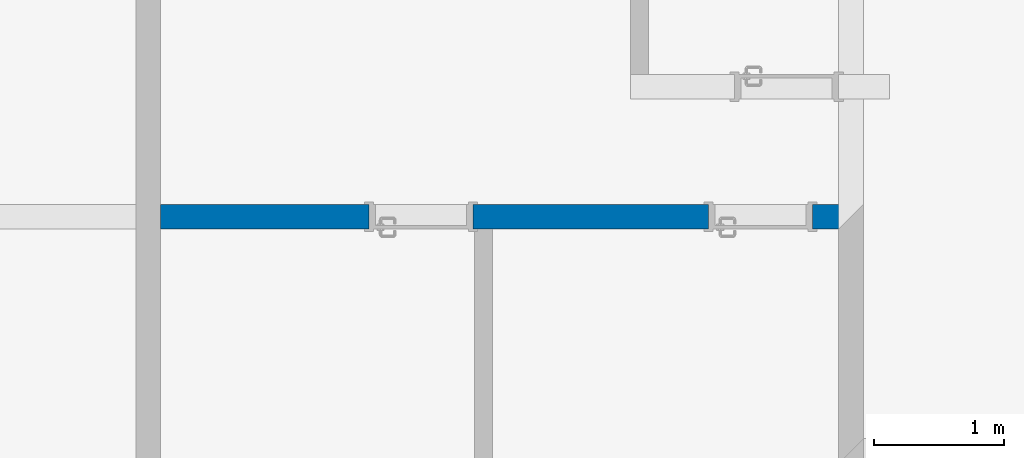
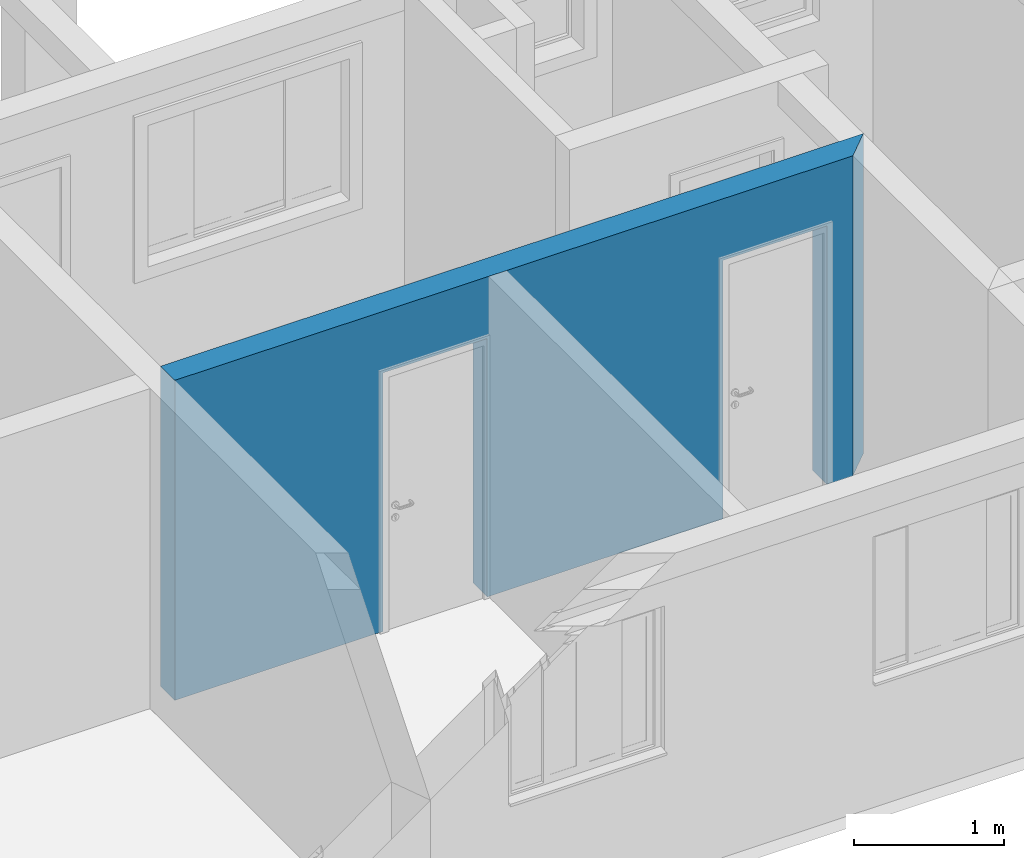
# One storey, part 17 of 47: 1 wall, 2 openings.
"""IFC2X3 building model written with IfcOpenShell, lengths in millimetres."""

import ifcopenshell
import ifcopenshell.guid

model = None  # the IFC model being written
_history = None  # IfcOwnerHistory: only IFC2X3 demands one
_inside = {}  # id of a spatial element -> (the spatial element, [elements in it])
_under = {}  # id of a project, library or spatial element -> (it, [spatial elements below it])
_declared = {}  # id of a project -> (the project, [libraries it declares])
_typed = {}  # id of a type object -> (the type object, [elements of that type])
_made_of = {}  # id of a material, layer set ... -> (it, [elements and type objects made of it])


def new_model(schema):
    """Start an empty IFC model of exactly this schema.

    Asked for "IFC4X3", IfcOpenShell would pick the latest addendum, in which some entities
    have other attributes; the version numbers below select the first issue.
    IFC2X3 requires an IfcOwnerHistory on every rooted entity: one is made here for all.
    """
    global model, _history
    if schema == "IFC4X3":
        model = ifcopenshell.file(schema_version=(4, 3, 0, 0))
    else:
        model = ifcopenshell.file(schema=schema)
    _inside.clear()
    _under.clear()
    _declared.clear()
    _typed.clear()
    _made_of.clear()
    _history = None
    if model.schema == "IFC2X3":
        org = make("IfcOrganization", Name="unknown")
        user = make(
            "IfcPersonAndOrganization",
            ThePerson=make("IfcPerson", FamilyName="unknown"),
            TheOrganization=org,
        )
        app = make(
            "IfcApplication",
            ApplicationDeveloper=org,
            Version="unknown",
            ApplicationFullName="unknown",
            ApplicationIdentifier="unknown",
        )
        _history = make(
            "IfcOwnerHistory",
            OwningUser=user,
            OwningApplication=app,
            ChangeAction="ADDED",
            CreationDate=0,
        )
    return model


def make(cls, **values):
    """One entity of the class cls with the attributes given. An attribute that is None is left unset."""
    return model.create_entity(
        cls, **{name: value for name, value in values.items() if value is not None}
    )


def entity(cls, *values):
    """Any entity or typed value of the class cls, its attributes in the order of the schema. None: left unset."""
    e = model.create_entity(cls)
    for i, value in enumerate(values):
        if value is not None:
            e[i] = value
    return e


def rooted(cls, **values):
    """An entity with a GlobalId (a new one), such as an element, a storey or a relation."""
    return make(cls, GlobalId=ifcopenshell.guid.new(), OwnerHistory=_history, **values)


def si_unit(unit_type, name, prefix=None):
    """IfcSIUnit, for example si_unit("LENGTHUNIT", "METRE", prefix="MILLI")."""
    return make("IfcSIUnit", UnitType=unit_type, Prefix=prefix, Name=name)


def converted_unit(unit_type, name, factor, base, dimensions=None, offset=None):
    """IfcConversionBasedUnit, such as the inch: factor (a typed value) times the base unit."""
    return make(
        "IfcConversionBasedUnit"
        if offset is None
        else "IfcConversionBasedUnitWithOffset",
        ConversionOffset=offset,
        Dimensions=None
        if dimensions is None
        else entity("IfcDimensionalExponents", *dimensions),
        UnitType=unit_type,
        Name=name,
        ConversionFactor=make(
            "IfcMeasureWithUnit", ValueComponent=factor, UnitComponent=base
        ),
    )


def derived_unit(unit_type, elements):
    """IfcDerivedUnit: a product of units, each with its exponent."""
    return make(
        "IfcDerivedUnit",
        Elements=[
            make("IfcDerivedUnitElement", Unit=unit, Exponent=power)
            for unit, power in elements
        ],
        UnitType=unit_type,
    )


def money_unit(currency):
    """IfcMonetaryUnit."""
    return make("IfcMonetaryUnit", Currency=currency)


def assignment(units):
    """IfcUnitAssignment: the units of a project."""
    return None if units is None else make("IfcUnitAssignment", Units=units)


def point(xyz):
    """IfcCartesianPoint."""
    return None if xyz is None else make("IfcCartesianPoint", Coordinates=xyz)


def direction(xyz):
    """IfcDirection."""
    return None if xyz is None else make("IfcDirection", DirectionRatios=xyz)


def frame(location, z_axis=None, x_axis=None):
    """IfcAxis2Placement3D, a coordinate frame: its origin and axes. An axis left out is left unset."""
    return make(
        "IfcAxis2Placement3D",
        Location=point(location),
        Axis=direction(z_axis),
        RefDirection=direction(x_axis),
    )


def frame_2d(location, x_axis=None):
    """IfcAxis2Placement2D, a coordinate frame in the plane: its origin and x axis."""
    return make(
        "IfcAxis2Placement2D", Location=point(location), RefDirection=direction(x_axis)
    )


def origin_with_axes():
    """The frame at (0, 0, 0) with the z axis (0, 0, 1) and the x axis (1, 0, 0) written out."""
    return frame((0.0, 0.0, 0.0), z_axis=(0.0, 0.0, 1.0), x_axis=(1.0, 0.0, 0.0))


def origin_2d_with_axis():
    """The frame at (0, 0) in the plane with the x axis (1, 0) written out."""
    return frame_2d((0.0, 0.0), x_axis=(1.0, 0.0))


def place(relative_to, where):
    """IfcLocalPlacement: puts the frame where relative to a parent placement (None: the world)."""
    return make(
        "IfcLocalPlacement", PlacementRelTo=relative_to, RelativePlacement=where
    )


def context(
    kind, dimensions, precision=None, world=None, true_north=None, identifier=None
):
    """IfcGeometricRepresentationContext, for example the 3D "Model" context."""
    return make(
        "IfcGeometricRepresentationContext",
        ContextIdentifier=identifier,
        ContextType=kind,
        CoordinateSpaceDimension=dimensions,
        Precision=precision,
        WorldCoordinateSystem=world,
        TrueNorth=true_north,
    )


def subcontext(parent, identifier, kind, view, scale=None):
    """IfcGeometricRepresentationSubContext, for example "Body" below "Model"."""
    return make(
        "IfcGeometricRepresentationSubContext",
        ContextIdentifier=identifier,
        ContextType=kind,
        ParentContext=parent,
        TargetScale=scale,
        TargetView=view,
    )


def project(units=None, contexts=None):
    """IfcProject with its units and contexts."""
    return rooted(
        "IfcProject",
        Name="project",
        RepresentationContexts=contexts,
        UnitsInContext=assignment(units),
    )


def spatial(cls, under=None, at=None, **own):
    """A site, building, storey or space (cls), placed at a placement, below another one or the project."""
    s = rooted(cls, ObjectPlacement=at, **own)
    if under is not None:
        _under.setdefault(under.id(), (under, []))[1].append(s)
    return s


def polyline(points):
    """IfcPolyline through the points."""
    return make("IfcPolyline", Points=[point(p) for p in points])


def profile(cls, at=None, kind="AREA", **sizes):
    """A parametric profile (cls). Its sizes go by their IFC names, for example OverallWidth=200.0."""
    return make(cls, ProfileType=kind, Position=at, **sizes)


def rectangle(**sizes):
    """IfcRectangleProfileDef."""
    return profile("IfcRectangleProfileDef", **sizes)


def outline(outer, holes=None, kind="AREA"):
    """IfcArbitraryClosedProfileDef: a profile drawn as a closed curve; with holes, ...WithVoids."""
    if holes is None:
        return make("IfcArbitraryClosedProfileDef", ProfileType=kind, OuterCurve=outer)
    return make(
        "IfcArbitraryProfileDefWithVoids",
        ProfileType=kind,
        OuterCurve=outer,
        InnerCurves=holes,
    )


def extrude(swept, where, along, depth):
    """IfcExtrudedAreaSolid: the profile swept, set in the frame where, extruded along a direction by depth."""
    return make(
        "IfcExtrudedAreaSolid",
        SweptArea=swept,
        Position=where,
        ExtrudedDirection=direction(along),
        Depth=depth,
    )


def shape(context_of_items, identifier, shape_type, items):
    """IfcShapeRepresentation: the items that make up one representation, for example the "Body"."""
    return make(
        "IfcShapeRepresentation",
        ContextOfItems=context_of_items,
        RepresentationIdentifier=identifier,
        RepresentationType=shape_type,
        Items=items,
    )


def material(Name=None, Category=None):
    """IfcMaterial."""
    return make("IfcMaterial", Name=Name, Category=Category)


def layer(
    of_material, thickness, ventilated=None, Name=None, Category=None, Priority=None
):
    """IfcMaterialLayer: one layer of a wall or slab, of a material (None: an air gap)."""
    return make(
        "IfcMaterialLayer",
        Material=of_material,
        LayerThickness=thickness,
        IsVentilated=ventilated,
        Name=Name,
        Category=Category,
        Priority=Priority,
    )


def layer_set(layers, Name=None):
    """IfcMaterialLayerSet."""
    return make("IfcMaterialLayerSet", MaterialLayers=layers, LayerSetName=Name)


def layer_usage(for_layer_set, set_direction, sense, offset, extent=None):
    """IfcMaterialLayerSetUsage: how a layer set lies in its element."""
    return make(
        "IfcMaterialLayerSetUsage",
        ForLayerSet=for_layer_set,
        LayerSetDirection=set_direction,
        DirectionSense=sense,
        OffsetFromReferenceLine=offset,
        ReferenceExtent=extent,
    )


def made_of(thing, what):
    """Note that an element or type object is made of a material, layer set ...; save() writes the relation."""
    if what is not None:
        _made_of.setdefault(what.id(), (what, []))[1].append(thing)
    return thing


def type_object(cls, material=None, **own):
    """A type object (cls), such as IfcWallType, which elements share."""
    return made_of(rooted(cls, **own), material)


def element(
    cls,
    number,
    at=None,
    inside=None,
    cuts=None,
    type_object=None,
    material=None,
    context=None,
    identifier="Body",
    shape_type=None,
    held_by="IfcProductDefinitionShape",
    body=None,
    shapes=None,
    **own,
):
    """One element of the class cls, such as IfcWall. Its Tag is "e" and its number.

    at: its placement. inside: the storey or other place that contains it. cuts: it is an
    opening in that element (IfcRelVoidsElement). A single representation is given by context,
    identifier, shape_type and body (its items); several are given by shapes. held_by: the class
    of the entity that holds the representations. save() writes the other relations.
    """
    e = rooted(cls, Tag="e%d" % number, ObjectPlacement=at, **own)
    if body is not None:
        shapes = [shape(context, identifier, shape_type, body)]
    if shapes is not None:
        e.Representation = make(held_by, Representations=shapes)
    if inside is not None:
        _inside.setdefault(inside.id(), (inside, []))[1].append(e)
    if cuts is not None:
        rooted(
            "IfcRelVoidsElement", RelatingBuildingElement=cuts, RelatedOpeningElement=e
        )
    if type_object is not None:
        _typed.setdefault(type_object.id(), (type_object, []))[1].append(e)
    return made_of(e, material)


def aggregate(whole, parts):
    """IfcRelAggregates: a whole, such as a stair, and the parts it consists of."""
    return rooted("IfcRelAggregates", RelatingObject=whole, RelatedObjects=parts)


def save(model, path):
    """Write the relations noted so far, then the file.

    IfcRelAggregates (storeys below a building ...), IfcRelContainedInSpatialStructure (elements
    in a storey), IfcRelDefinesByType, IfcRelAssociatesMaterial and IfcRelDeclares: one each for
    every whole, place, type object, material and project.
    """
    for whole, parts in _under.values():
        aggregate(whole, parts)
    for where, things in _inside.values():
        rooted(
            "IfcRelContainedInSpatialStructure",
            RelatedElements=things,
            RelatingStructure=where,
        )
    for kind, things in _typed.values():
        rooted("IfcRelDefinesByType", RelatedObjects=things, RelatingType=kind)
    for what, things in _made_of.values():
        rooted("IfcRelAssociatesMaterial", RelatedObjects=things, RelatingMaterial=what)
    for by, libraries in _declared.values():
        rooted("IfcRelDeclares", RelatingContext=by, RelatedDefinitions=libraries)
    model.write(path)


model = new_model("IFC2X3")

# Units and contexts
model_context = context("Model", 3, precision=0.01, world=origin_with_axes(), true_north=direction((0.0, 1.0)))
body_context = subcontext(model_context, "Body", "Model", "MODEL_VIEW")
ifc_project = project(units=[si_unit("LENGTHUNIT", "METRE", prefix="MILLI"), si_unit("AREAUNIT", "SQUARE_METRE"), si_unit("VOLUMEUNIT", "CUBIC_METRE"), converted_unit("PLANEANGLEUNIT", "DEGREE", entity("IfcPlaneAngleMeasure", 0.0174532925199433), si_unit("PLANEANGLEUNIT", "RADIAN"), dimensions=[0, 0, 0, 0, 0, 0, 0]), money_unit("USD"), converted_unit("TIMEUNIT", "Year", entity("IfcTimeMeasure", 31557600.0), si_unit("TIMEUNIT", "SECOND"), dimensions=[0, 0, 1, 0, 0, 0, 0]), si_unit("MASSUNIT", "GRAM", prefix="KILO"), si_unit("THERMODYNAMICTEMPERATUREUNIT", "DEGREE_CELSIUS"), si_unit("LUMINOUSINTENSITYUNIT", "LUMEN"), si_unit("ENERGYUNIT", "JOULE", prefix="MEGA"), derived_unit("THERMALCONDUCTANCEUNIT", [(si_unit("POWERUNIT", "WATT"), 1), (si_unit("LENGTHUNIT", "METRE"), -1), (si_unit("THERMODYNAMICTEMPERATUREUNIT", "KELVIN"), -1)]), derived_unit("SPECIFICHEATCAPACITYUNIT", [(si_unit("ENERGYUNIT", "JOULE"), 1), (si_unit("MASSUNIT", "GRAM", prefix="KILO"), -1), (si_unit("THERMODYNAMICTEMPERATUREUNIT", "KELVIN"), -1)]), derived_unit("MASSDENSITYUNIT", [(si_unit("MASSUNIT", "GRAM", prefix="KILO"), 1), (si_unit("VOLUMEUNIT", "CUBIC_METRE"), -1)])], contexts=[model_context])

# Site, building, storey
site_placement = place(None, origin_with_axes())
site = spatial("IfcSite", under=ifc_project, at=site_placement, Name="Local", CompositionType="ELEMENT")
building_placement = place(site_placement, origin_with_axes())
building = spatial("IfcBuilding", under=site, at=building_placement, Name="Construção", CompositionType="ELEMENT")
storey_placement = place(building_placement, origin_with_axes())
storey = spatial("IfcBuildingStorey", under=building, at=storey_placement, Name="Pavimento Tipo", CompositionType="ELEMENT", Elevation=0.0)

# Wall, openings
ifc_material = material(Name="Concreto - Estrutural")
ifc_layer = layer(ifc_material, 190.0, ventilated="UNKNOWN")
ifc_layer_set = layer_set([ifc_layer], Name="Concreto - Estrutural 190")
ifc_layer_usage = layer_usage(ifc_layer_set, "AXIS2", "POSITIVE", 0.0)
wall_type = type_object("IfcWallType", Name="Concreto - Estrutural 190", PredefinedType="NOTDEFINED")
wall_placement = place(storey_placement, frame((6442.566997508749, 1986.981417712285, 0.0), z_axis=(0.0, 0.0, 1.0), x_axis=(-1.0, 0.0, 0.0)))
wall = element("IfcWallStandardCase", 1, at=wall_placement, inside=storey, type_object=wall_type, material=ifc_layer_usage, Name="Apartamento 4 - Parede-084", context=body_context, shape_type="SweptSolid", body=[
    extrude(outline(polyline([(0.0, 0.0), (5399.999999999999, 0.0), (5399.999999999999, 189.9999999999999), (190.0000000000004, 189.9999999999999), (0.0, 0.0)])), origin_with_axes(), (0.0, 0.0, 1.0), 2600.0),
])
opening_1_placement = place(wall_placement, frame((790.0000000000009, 0.0, 0.0), z_axis=(0.0, 0.0, 1.0), x_axis=(1.0, 0.0, 0.0)))
element("IfcOpeningElement", 2, at=opening_1_placement, cuts=wall, Name="Apartamento 4 - P03", context=body_context, shape_type="SweptSolid", body=[
    extrude(rectangle(XDim=800.0000000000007, YDim=2100.0, at=origin_2d_with_axis()), frame((0.0, 189.9999999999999, 1050.0), z_axis=(0.0, 1.0, 0.0), x_axis=(-1.0, 0.0, 0.0)), (0.0, 0.0, -1.0), 570.0000000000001),
    extrude(rectangle(XDim=869.9999999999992, YDim=2135.0, at=origin_2d_with_axis()), frame((0.0, 190.0000000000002, 1067.5), z_axis=(0.0, 1.0, 0.0), x_axis=(-1.0, 0.0, 0.0)), (0.0, 0.0, 1.0), 190.0),
    extrude(rectangle(XDim=869.9999999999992, YDim=2135.0, at=origin_2d_with_axis()), frame((0.0, 0.0, 1067.5), z_axis=(0.0, -1.0, 0.0), x_axis=(-1.0, 0.0, 0.0)), (0.0, 0.0, 1.0), 190.0),
])
opening_2_placement = place(wall_placement, frame((3400.0, 0.0, 0.0), z_axis=(0.0, 0.0, 1.0), x_axis=(1.0, 0.0, 0.0)))
element("IfcOpeningElement", 3, at=opening_2_placement, cuts=wall, Name="Apartamento 4 - P04", context=body_context, shape_type="SweptSolid", body=[
    extrude(rectangle(XDim=799.9999999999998, YDim=2100.0, at=origin_2d_with_axis()), frame((0.0, 189.9999999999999, 1050.0), z_axis=(0.0, 1.0, 0.0), x_axis=(-1.0, 0.0, 0.0)), (0.0, 0.0, -1.0), 570.0000000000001),
    extrude(rectangle(XDim=870.0000000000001, YDim=2135.0, at=origin_2d_with_axis()), frame((0.0, 189.9999999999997, 1067.5), z_axis=(0.0, 1.0, 0.0), x_axis=(-1.0, 0.0, 0.0)), (0.0, 0.0, 1.0), 190.0),
    extrude(rectangle(XDim=870.0000000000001, YDim=2135.0, at=origin_2d_with_axis()), frame((0.0, 0.0, 1067.5), z_axis=(0.0, -1.0, 0.0), x_axis=(-1.0, 0.0, 0.0)), (0.0, 0.0, 1.0), 190.0),
])

save(model, "model.ifc")
